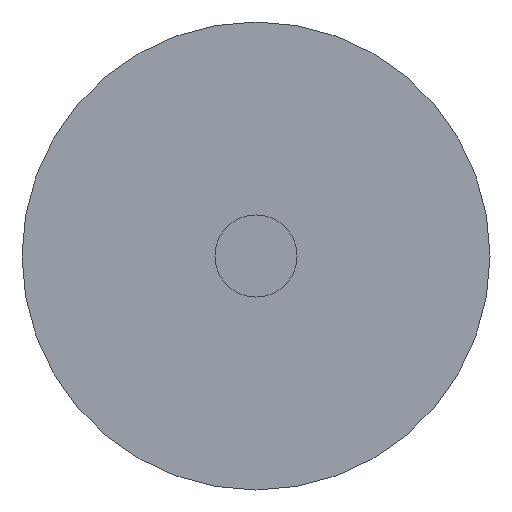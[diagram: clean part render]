
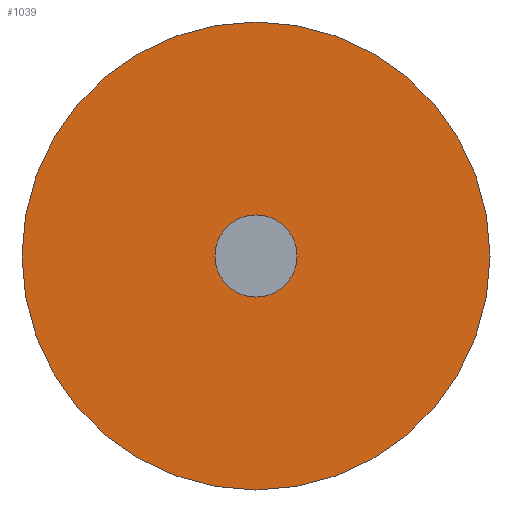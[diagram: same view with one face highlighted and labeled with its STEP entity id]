
A CAD part, left-side view. The second image highlights one B-rep face of the part: STEP entity #1039.
In plain terms, the highlighted planar face has unit normal (-1, 0, 0).
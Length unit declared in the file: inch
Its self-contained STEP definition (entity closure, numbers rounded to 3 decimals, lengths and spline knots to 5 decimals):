
#162 = AXIS2_PLACEMENT_3D ( 'NONE', #323, #1003, #1931 ) ;
#250 = ORIENTED_EDGE ( 'NONE', *, *, #710, .T. ) ;
#291 = DIRECTION ( 'NONE',  ( -1., 0., 0. ) ) ;
#323 = CARTESIAN_POINT ( 'NONE',  ( 0., 0., 0. ) ) ;
#505 = CARTESIAN_POINT ( 'NONE',  ( 0., 0., 0. ) ) ;
#580 = CARTESIAN_POINT ( 'NONE',  ( 0., 0., -0.17118 ) ) ;
#606 = EDGE_CURVE ( 'NONE', #2146, #2265, #2458, .T. ) ;
#710 = EDGE_CURVE ( 'NONE', #2265, #2146, #1768, .T. ) ;
#720 = FACE_BOUND ( 'NONE', #1026, .T. ) ;
#761 = DIRECTION ( 'NONE',  ( 0., 0., 1. ) ) ;
#769 = CARTESIAN_POINT ( 'NONE',  ( 0., 0., 0. ) ) ;
#847 = CARTESIAN_POINT ( 'NONE',  ( 0., 0., 0.17118 ) ) ;
#918 = CIRCLE ( 'NONE', #2216, 0.03 ) ;
#1003 = DIRECTION ( 'NONE',  ( -1., 0., 0. ) ) ;
#1026 = EDGE_LOOP ( 'NONE', ( #1806, #1347 ) ) ;
#1039 = ADVANCED_FACE ( 'NONE', ( #720, #1645 ), #2523, .F. ) ;
#1201 = DIRECTION ( 'NONE',  ( 0., 0., 1. ) ) ;
#1267 = VERTEX_POINT ( 'NONE', #1399 ) ;
#1311 = CIRCLE ( 'NONE', #162, 0.03 ) ;
#1347 = ORIENTED_EDGE ( 'NONE', *, *, #1368, .F. ) ;
#1368 = EDGE_CURVE ( 'NONE', #2671, #1267, #918, .T. ) ;
#1399 = CARTESIAN_POINT ( 'NONE',  ( 0., 0., 0.03 ) ) ;
#1415 = DIRECTION ( 'NONE',  ( 1., 0., 0. ) ) ;
#1645 = FACE_OUTER_BOUND ( 'NONE', #2557, .T. ) ;
#1650 = AXIS2_PLACEMENT_3D ( 'NONE', #505, #1415, #2312 ) ;
#1694 = DIRECTION ( 'NONE',  ( -1., 0., 0. ) ) ;
#1764 = EDGE_CURVE ( 'NONE', #1267, #2671, #1311, .T. ) ;
#1768 = CIRCLE ( 'NONE', #1862, 0.17118 ) ;
#1806 = ORIENTED_EDGE ( 'NONE', *, *, #1764, .F. ) ;
#1824 = ORIENTED_EDGE ( 'NONE', *, *, #606, .T. ) ;
#1862 = AXIS2_PLACEMENT_3D ( 'NONE', #1912, #2778, #761 ) ;
#1912 = CARTESIAN_POINT ( 'NONE',  ( 0., 0., 0. ) ) ;
#1931 = DIRECTION ( 'NONE',  ( 0., 0., 1. ) ) ;
#2146 = VERTEX_POINT ( 'NONE', #580 ) ;
#2216 = AXIS2_PLACEMENT_3D ( 'NONE', #769, #1694, #2575 ) ;
#2265 = VERTEX_POINT ( 'NONE', #847 ) ;
#2312 = DIRECTION ( 'NONE',  ( 0., 0., -1. ) ) ;
#2328 = CARTESIAN_POINT ( 'NONE',  ( 0., 0., 0. ) ) ;
#2454 = AXIS2_PLACEMENT_3D ( 'NONE', #2328, #291, #1201 ) ;
#2458 = CIRCLE ( 'NONE', #2454, 0.17118 ) ;
#2523 = PLANE ( 'NONE',  #1650 ) ;
#2557 = EDGE_LOOP ( 'NONE', ( #250, #1824 ) ) ;
#2575 = DIRECTION ( 'NONE',  ( 0., 0., 1. ) ) ;
#2671 = VERTEX_POINT ( 'NONE', #2819 ) ;
#2778 = DIRECTION ( 'NONE',  ( -1., 0., 0. ) ) ;
#2819 = CARTESIAN_POINT ( 'NONE',  ( 0., 0., -0.03 ) ) ;
